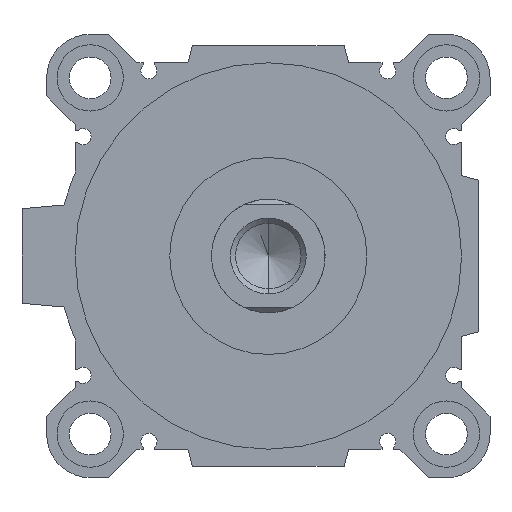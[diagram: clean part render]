
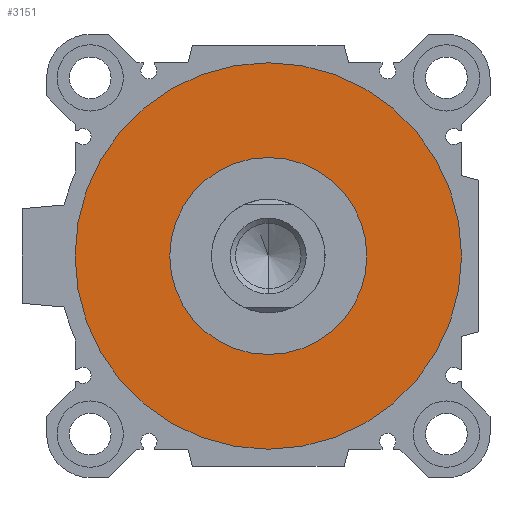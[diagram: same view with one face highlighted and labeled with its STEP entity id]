
A CAD part, left-side view. The second image highlights one B-rep face of the part: STEP entity #3151.
In plain terms, the highlighted planar face has unit normal (-1, 0, 0).
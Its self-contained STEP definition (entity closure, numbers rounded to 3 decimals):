
#139 = CARTESIAN_POINT ( 'NONE',  ( 6.5, 0., 0. ) ) ;
#375 = CARTESIAN_POINT ( 'NONE',  ( 6.5, 0., 0. ) ) ;
#452 = CIRCLE ( 'NONE', #3346, 51. ) ;
#477 = AXIS2_PLACEMENT_3D ( 'NONE', #8137, #4433, #7323 ) ;
#704 = CARTESIAN_POINT ( 'NONE',  ( 6.5, 0., -26. ) ) ;
#1259 = EDGE_CURVE ( 'NONE', #2872, #4301, #6951, .T. ) ;
#1737 = DIRECTION ( 'NONE',  ( 1., 0., 0. ) ) ;
#1935 = EDGE_LOOP ( 'NONE', ( #2357, #4828 ) ) ;
#1981 = CARTESIAN_POINT ( 'NONE',  ( 6.5, 0., 51. ) ) ;
#2269 = ORIENTED_EDGE ( 'NONE', *, *, #1259, .F. ) ;
#2357 = ORIENTED_EDGE ( 'NONE', *, *, #4535, .T. ) ;
#2441 = CIRCLE ( 'NONE', #477, 26. ) ;
#2477 = VERTEX_POINT ( 'NONE', #8076 ) ;
#2621 = DIRECTION ( 'NONE',  ( 1., 0., 0. ) ) ;
#2663 = FACE_OUTER_BOUND ( 'NONE', #7027, .T. ) ;
#2794 = AXIS2_PLACEMENT_3D ( 'NONE', #6105, #1737, #6646 ) ;
#2872 = VERTEX_POINT ( 'NONE', #1981 ) ;
#3151 = ADVANCED_FACE ( 'NONE', ( #2663, #5851 ), #3230, .F. ) ;
#3178 = CIRCLE ( 'NONE', #2794, 26. ) ;
#3230 = PLANE ( 'NONE',  #5666 ) ;
#3346 = AXIS2_PLACEMENT_3D ( 'NONE', #375, #3502, #7344 ) ;
#3502 = DIRECTION ( 'NONE',  ( 1., 0., 0. ) ) ;
#3869 = CARTESIAN_POINT ( 'NONE',  ( 6.5, 0., 0. ) ) ;
#4066 = AXIS2_PLACEMENT_3D ( 'NONE', #3869, #6359, #7040 ) ;
#4301 = VERTEX_POINT ( 'NONE', #5914 ) ;
#4433 = DIRECTION ( 'NONE',  ( 1., 0., 0. ) ) ;
#4535 = EDGE_CURVE ( 'NONE', #2477, #7548, #2441, .T. ) ;
#4798 = ORIENTED_EDGE ( 'NONE', *, *, #6656, .F. ) ;
#4828 = ORIENTED_EDGE ( 'NONE', *, *, #6064, .T. ) ;
#5666 = AXIS2_PLACEMENT_3D ( 'NONE', #139, #2621, #7624 ) ;
#5851 = FACE_BOUND ( 'NONE', #1935, .T. ) ;
#5914 = CARTESIAN_POINT ( 'NONE',  ( 6.5, 0., -51. ) ) ;
#6064 = EDGE_CURVE ( 'NONE', #7548, #2477, #3178, .T. ) ;
#6105 = CARTESIAN_POINT ( 'NONE',  ( 6.5, 0., 0. ) ) ;
#6359 = DIRECTION ( 'NONE',  ( 1., 0., 0. ) ) ;
#6646 = DIRECTION ( 'NONE',  ( 0., 0., -1. ) ) ;
#6656 = EDGE_CURVE ( 'NONE', #4301, #2872, #452, .T. ) ;
#6951 = CIRCLE ( 'NONE', #4066, 51. ) ;
#7027 = EDGE_LOOP ( 'NONE', ( #2269, #4798 ) ) ;
#7040 = DIRECTION ( 'NONE',  ( 0., 0., -1. ) ) ;
#7323 = DIRECTION ( 'NONE',  ( 0., 0., -1. ) ) ;
#7344 = DIRECTION ( 'NONE',  ( 0., 0., -1. ) ) ;
#7548 = VERTEX_POINT ( 'NONE', #704 ) ;
#7624 = DIRECTION ( 'NONE',  ( 0., 1., 0. ) ) ;
#8076 = CARTESIAN_POINT ( 'NONE',  ( 6.5, 0., 26. ) ) ;
#8137 = CARTESIAN_POINT ( 'NONE',  ( 6.5, 0., 0. ) ) ;
